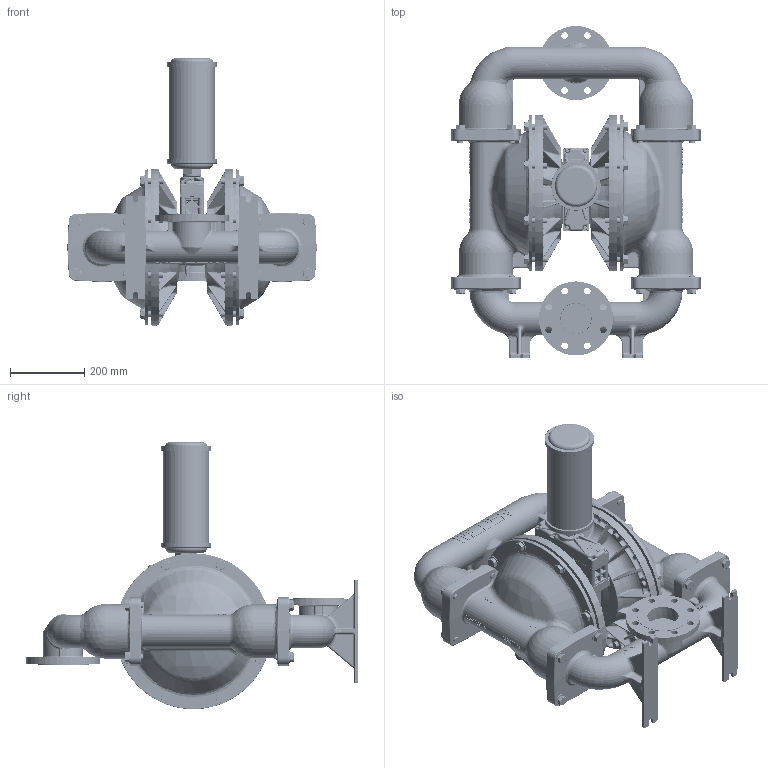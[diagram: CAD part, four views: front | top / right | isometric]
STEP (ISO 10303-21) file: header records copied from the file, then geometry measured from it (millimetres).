
FILE_DESCRIPTION (( 'STEP AP203' ), '1' );
FILE_NAME ('PS1530_ADV_DI_DIN s.STEP', '2022-05-26T12:40:11', ( '' ), ( '' ), 'SwSTEP 2.0', 'SolidWorks 2019', '' );
FILE_SCHEMA (( 'CONFIG_CONTROL_DESIGN' ));
Length unit declared in the file: inch
Products named in the file (1): PS1530_ADV_DI_DIN s
Bounding box: 672.77 x 895.6 x 721.03 mm (x, y, z)
Volume: 56393824.7 mm3; surface area: 2619030.1 mm2
Topology: 1 solids, 1 shells, 13242 faces, 33255 edges, 20434 vertices
Faces by surface type: plane 6620, bspline 2880, cylinder 1366, torus 1047, cone 799, sphere 530
Entity records: 783221 total; most frequent: CARTESIAN_POINT 489799, ORIENTED_EDGE 66406, DIRECTION 53630, EDGE_CURVE 33203, VERTEX_POINT 20426, AXIS2_PLACEMENT_3D 18353, LINE 16924, VECTOR 16924
